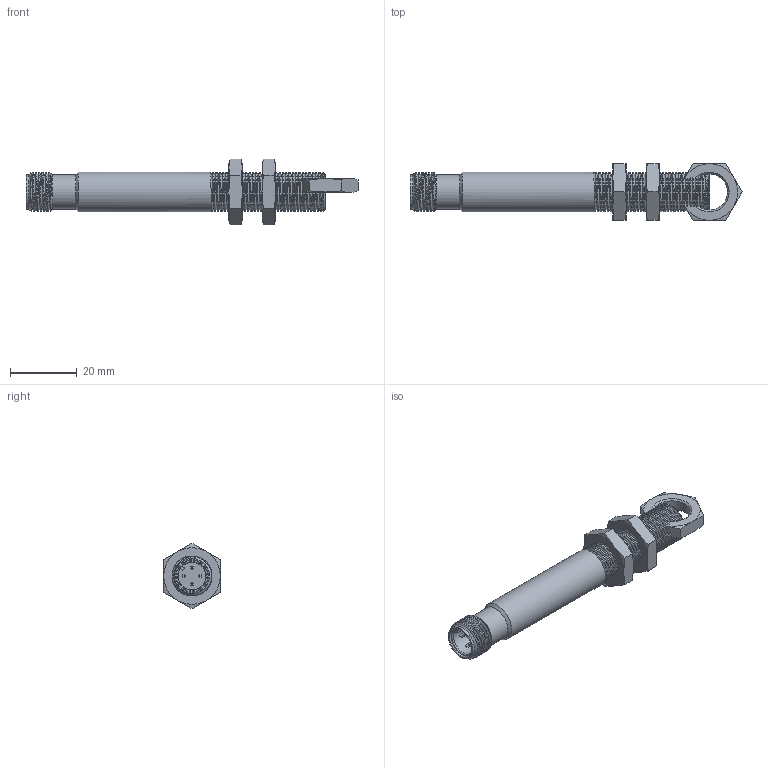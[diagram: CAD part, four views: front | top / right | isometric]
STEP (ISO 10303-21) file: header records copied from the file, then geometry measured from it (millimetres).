
FILE_DESCRIPTION( ( 'STEP AP214' ), '1' );
FILE_NAME( 'N:/Engineering/CAD_Solid/Wirbelstrom/IC/IC12-02.stp', '2012-03-14T13:34:20', ( ' ' ), ( ' ' ), 'XStep 1.0', ' ', ' ' );
FILE_SCHEMA( ( 'CONFIG_CONTROL_DESIGN) ( )' ) );
Length unit declared in the file: metre
Products named in the file (3): Assem1; IC12-02; Mutter_DIN439_M12x1
Bounding box: 99.81 x 17 x 19.63 mm (x, y, z)
Volume: 19993.6 mm3; surface area: 11741.5 mm2
Topology: 5 solids, 5 shells, 299 faces, 769 edges, 494 vertices
Faces by surface type: plane 146, cylinder 85, cone 58, bspline 8, torus 2
Full cylindrical faces by diameter (mm): 8.3 x2, 9.45 x2, 10.45 x4, 10.917 x3, 12 x68
Entity records: 7453 total; most frequent: CARTESIAN_POINT 4474, ORIENTED_EDGE 468, DIRECTION 441, EDGE_CURVE 234, LINE 161, VECTOR 161, VERTEX_POINT 157, AXIS2_PLACEMENT_3D 140
